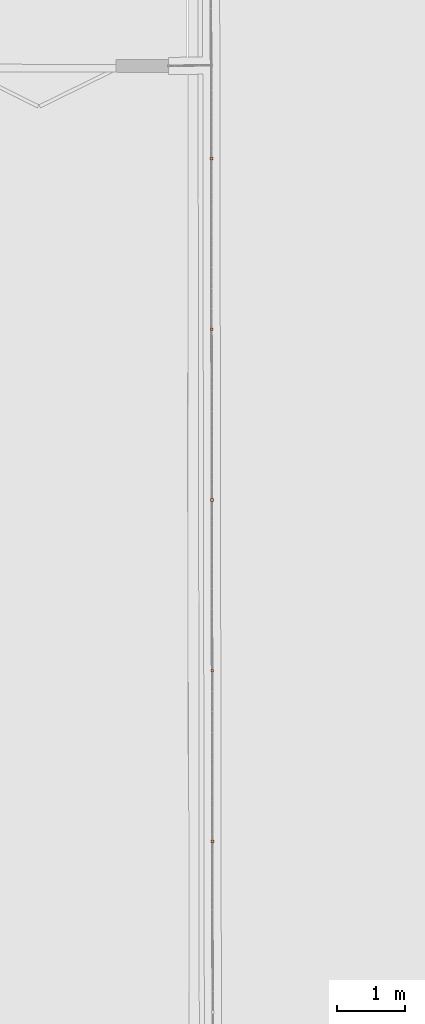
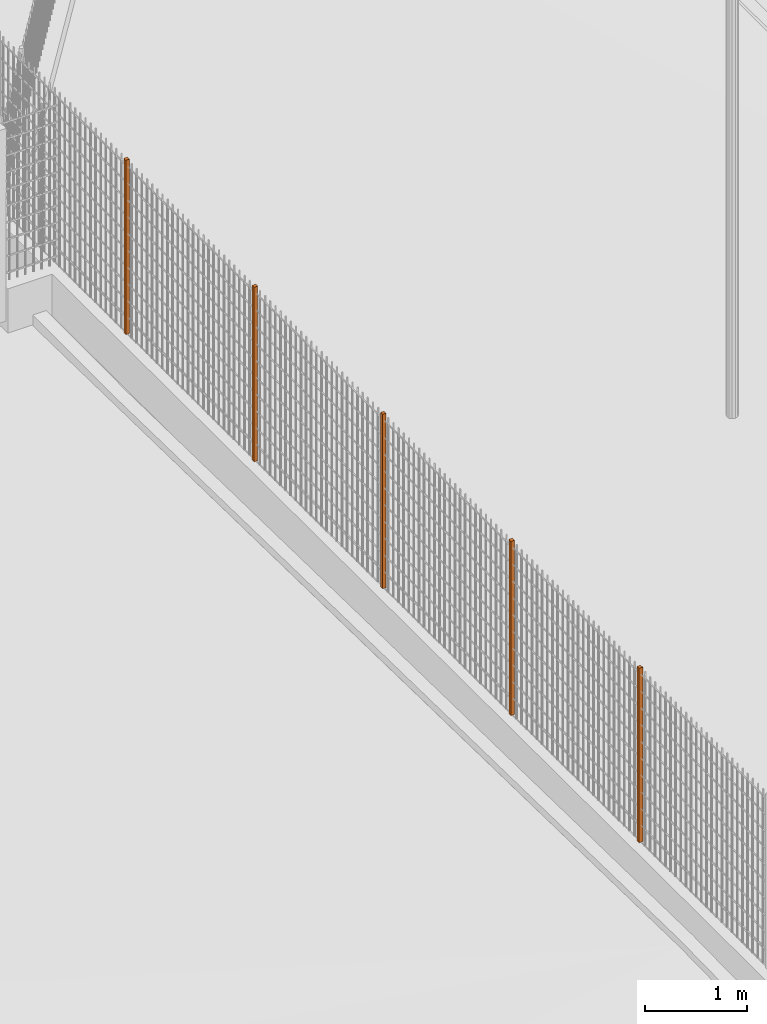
# One storey, part 37 of 1809: 5 proxies, 1 element without a shape of its own.
"""IFC2X3 building model written with IfcOpenShell, lengths in millimetres."""

from ifc_helpers import new_model, entity, si_unit, converted_unit, derived_unit, money_unit, direction, frame, origin_with_axes, place, context, subcontext, project, spatial, faceted_brep, source, transform, mapped, material, type_object, element, aggregate, save


model = new_model("IFC2X3")

# Units and contexts
model_context = context("Model", 3, precision=0.01, world=origin_with_axes(), true_north=direction((0.0, 1.0)))
body_context = subcontext(model_context, "Body", "Model", "MODEL_VIEW")
ifc_project = project(units=[si_unit("LENGTHUNIT", "METRE", prefix="MILLI"), si_unit("AREAUNIT", "SQUARE_METRE"), si_unit("VOLUMEUNIT", "CUBIC_METRE"), converted_unit("PLANEANGLEUNIT", "DEGREE", entity("IfcPlaneAngleMeasure", 0.0174532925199), si_unit("PLANEANGLEUNIT", "RADIAN"), dimensions=[0, 0, 0, 0, 0, 0, 0]), si_unit("SOLIDANGLEUNIT", "STERADIAN"), money_unit("EUR"), converted_unit("TIMEUNIT", "Year", entity("IfcTimeMeasure", 31556926.0), si_unit("TIMEUNIT", "SECOND"), dimensions=[0, 0, 1, 0, 0, 0, 0]), si_unit("MASSUNIT", "GRAM", prefix="KILO"), si_unit("THERMODYNAMICTEMPERATUREUNIT", "DEGREE_CELSIUS"), si_unit("LUMINOUSINTENSITYUNIT", "LUMEN"), si_unit("ENERGYUNIT", "JOULE", prefix="MEGA"), derived_unit("THERMALCONDUCTANCEUNIT", [(si_unit("POWERUNIT", "WATT"), 1), (si_unit("LENGTHUNIT", "METRE"), -1), (si_unit("THERMODYNAMICTEMPERATUREUNIT", "KELVIN"), -1)]), derived_unit("SPECIFICHEATCAPACITYUNIT", [(si_unit("ENERGYUNIT", "JOULE"), 1), (si_unit("MASSUNIT", "GRAM", prefix="KILO"), -1), (si_unit("THERMODYNAMICTEMPERATUREUNIT", "KELVIN"), -1)]), derived_unit("MASSDENSITYUNIT", [(si_unit("MASSUNIT", "GRAM", prefix="KILO"), 1), (si_unit("VOLUMEUNIT", "CUBIC_METRE"), -1)])], contexts=[model_context])

# Site, building, storey
site_placement = place(None, origin_with_axes())
site = spatial("IfcSite", under=ifc_project, at=site_placement, Name="Politse- ja Piirivalveameti ning Päästeameti ühishoone", CompositionType="ELEMENT")
building_placement = place(site_placement, origin_with_axes())
building = spatial("IfcBuilding", under=site, at=building_placement, Name="Politse- ja Piirivalveameti ning Päästeameti ühishoone", CompositionType="ELEMENT")
storey_placement = place(building_placement, origin_with_axes())
storey = spatial("IfcBuildingStorey", under=building, at=storey_placement, Name="Esimene korrus", CompositionType="ELEMENT", Elevation=0.0)

# Proxies
building_element_proxy_type_1 = type_object("IfcBuildingElementProxyType", Name="Railing Type", PredefinedType="NOTDEFINED")
proxy_1_placement = place(storey_placement, frame((59427.6104606, 69881.7149182, 400.0), z_axis=(0.0, 0.0, 1.0), x_axis=(1.0, 0.0, 0.0)))
proxy_1 = element("IfcBuildingElementProxy", 1, at=proxy_1_placement, inside=storey, type_object=building_element_proxy_type_1, Name="PIIRDEAED")
ifc_material = material(Name="ET-03_Raud")
building_element_proxy_type_2 = type_object("IfcBuildingElementProxyType", Name="IfcBuildingElementProxy", PredefinedType="NOTDEFINED")
shared_shape_1 = source(origin_with_axes(), body_context, "Body", "Brep", [
    faceted_brep([(20.0, 20.0, 0.0), (-20.0, 20.0, 0.0), (-20.0, 20.0, 2080.0), (20.0, 20.0, 2080.0), (20.0, -20.0, 0.0), (-20.0, -20.0, 0.0), (-20.0, -20.0, 2080.0), (20.0, -20.0, 2080.0)], [[[0, 1, 2, 3]], [[0, 4, 5, 1]], [[1, 5, 6, 2]], [[3, 2, 6, 7]], [[4, 0, 3, 7]], [[5, 4, 7, 6]]]),
])
proxy_2_placement = place(proxy_1_placement, frame((183.842778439, 3824.39264748, 0.0), z_axis=(0.0, 0.0, 1.0), x_axis=(1.0, 0.0, 0.0)))
proxy_2 = element("IfcBuildingElementProxy", 2, at=proxy_2_placement, type_object=building_element_proxy_type_2, material=ifc_material, Name="SISEPOST - 001", context=body_context, shape_type="MappedRepresentation", body=[
    mapped(shared_shape_1, transform((0.0, 0.0, 0.0), x_axis=(-0.999998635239, -0.00165212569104, 0.0), y_axis=(0.00165212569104, -0.999998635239, 0.0), z_axis=(0.0, 0.0, 1.0))),
])
proxy_3_placement = place(proxy_1_placement, frame((187.973092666, 1324.39605938, 0.0), z_axis=(0.0, 0.0, 1.0), x_axis=(1.0, 0.0, 0.0)))
proxy_3 = element("IfcBuildingElementProxy", 3, at=proxy_3_placement, type_object=building_element_proxy_type_2, material=ifc_material, Name="SISEPOST - 001", context=body_context, shape_type="MappedRepresentation", body=[
    mapped(shared_shape_1, transform((0.0, 0.0, 0.0), x_axis=(-0.999998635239, -0.00165212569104, 0.0), y_axis=(0.00165212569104, -0.999998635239, 0.0), z_axis=(0.0, 0.0, 1.0))),
])
proxy_4_placement = place(proxy_1_placement, frame((192.103406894, -1175.60052872, 0.0), z_axis=(0.0, 0.0, 1.0), x_axis=(1.0, 0.0, 0.0)))
proxy_4 = element("IfcBuildingElementProxy", 4, at=proxy_4_placement, type_object=building_element_proxy_type_2, material=ifc_material, Name="SISEPOST - 001", context=body_context, shape_type="MappedRepresentation", body=[
    mapped(shared_shape_1, transform((0.0, 0.0, 0.0), x_axis=(-0.999998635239, -0.00165212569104, 0.0), y_axis=(0.00165212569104, -0.999998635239, 0.0), z_axis=(0.0, 0.0, 1.0))),
])
proxy_5_placement = place(proxy_1_placement, frame((196.233721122, -3675.59711682, 0.0), z_axis=(0.0, 0.0, 1.0), x_axis=(1.0, 0.0, 0.0)))
proxy_5 = element("IfcBuildingElementProxy", 5, at=proxy_5_placement, type_object=building_element_proxy_type_2, material=ifc_material, Name="SISEPOST - 001", context=body_context, shape_type="MappedRepresentation", body=[
    mapped(shared_shape_1, transform((0.0, 0.0, 0.0), x_axis=(-0.999998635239, -0.00165212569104, 0.0), y_axis=(0.00165212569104, -0.999998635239, 0.0), z_axis=(0.0, 0.0, 1.0))),
])
shared_shape_2 = source(origin_with_axes(), body_context, "Body", "Brep", [
    faceted_brep([(20.0, 20.0, 0.0), (-20.0, 20.0, 0.0), (-20.0, 20.0, 2080.0), (20.0, 20.0, 2080.0), (20.0, -20.0, 0.0), (-20.0, -20.0, 0.0), (-20.0, -20.0, 2080.0), (20.0, -20.0, 2080.0)], [[[0, 1, 2, 3]], [[0, 4, 5, 1]], [[1, 5, 6, 2]], [[3, 2, 6, 7]], [[4, 0, 3, 7]], [[5, 4, 7, 6]]]),
])
proxy_6_placement = place(proxy_1_placement, frame((200.364035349, -6175.59370492, 0.0), z_axis=(0.0, 0.0, 1.0), x_axis=(1.0, 0.0, 0.0)))
proxy_6 = element("IfcBuildingElementProxy", 6, at=proxy_6_placement, type_object=building_element_proxy_type_2, material=ifc_material, Name="SISEPOST - 001", context=body_context, shape_type="MappedRepresentation", body=[
    mapped(shared_shape_2, transform((0.0, 0.0, 0.0), x_axis=(-0.999998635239, -0.00165212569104, 0.0), y_axis=(0.00165212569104, -0.999998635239, 0.0), z_axis=(0.0, 0.0, 1.0))),
])
aggregate(proxy_1, [proxy_2, proxy_3, proxy_4, proxy_5, proxy_6])

save(model, "model.ifc")
